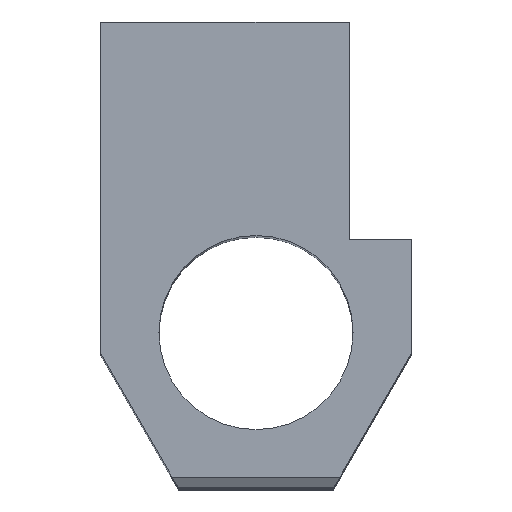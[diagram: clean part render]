
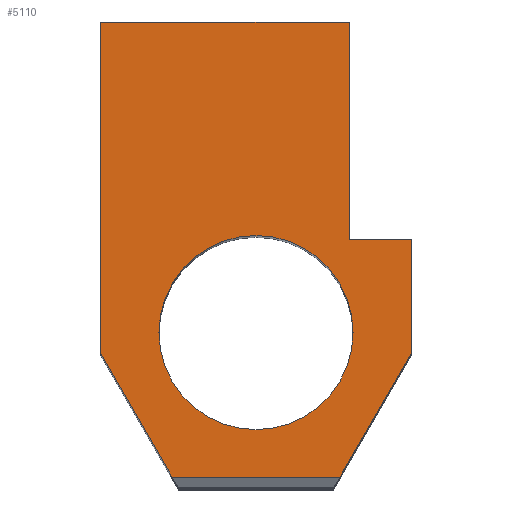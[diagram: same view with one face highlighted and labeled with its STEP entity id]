
A CAD part, top view. The second image highlights one B-rep face of the part: STEP entity #5110.
In plain terms, the highlighted planar face has unit normal (0, 0, 1).
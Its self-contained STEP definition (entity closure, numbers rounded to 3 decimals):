
#25=FACE_BOUND('',#416,.T.);
#37=CIRCLE('',#5377,6.25);
#172=FACE_OUTER_BOUND('',#415,.T.);
#415=EDGE_LOOP('',(#3584,#3585,#3586,#3587,#3588,#3589,#3590,#3591));
#416=EDGE_LOOP('',(#3592));
#550=LINE('',#6722,#1238);
#973=LINE('',#7628,#1661);
#974=LINE('',#7630,#1662);
#975=LINE('',#7632,#1663);
#976=LINE('',#7634,#1664);
#977=LINE('',#7636,#1665);
#978=LINE('',#7638,#1666);
#979=LINE('',#7639,#1667);
#1238=VECTOR('',#5517,10.);
#1661=VECTOR('',#6182,10.);
#1662=VECTOR('',#6183,10.);
#1663=VECTOR('',#6184,10.);
#1664=VECTOR('',#6185,10.);
#1665=VECTOR('',#6186,10.);
#1666=VECTOR('',#6187,10.);
#1667=VECTOR('',#6188,10.);
#1926=VERTEX_POINT('',#6719);
#1927=VERTEX_POINT('',#6721);
#2289=VERTEX_POINT('',#7627);
#2290=VERTEX_POINT('',#7629);
#2291=VERTEX_POINT('',#7631);
#2292=VERTEX_POINT('',#7633);
#2293=VERTEX_POINT('',#7635);
#2294=VERTEX_POINT('',#7637);
#2295=VERTEX_POINT('',#7640);
#2396=EDGE_CURVE('',#1926,#1927,#550,.T.);
#2819=EDGE_CURVE('',#1926,#2289,#973,.T.);
#2820=EDGE_CURVE('',#2289,#2290,#974,.T.);
#2821=EDGE_CURVE('',#2290,#2291,#975,.T.);
#2822=EDGE_CURVE('',#2291,#2292,#976,.T.);
#2823=EDGE_CURVE('',#2292,#2293,#977,.T.);
#2824=EDGE_CURVE('',#2293,#2294,#978,.T.);
#2825=EDGE_CURVE('',#2294,#1927,#979,.T.);
#2826=EDGE_CURVE('',#2295,#2295,#37,.T.);
#3584=ORIENTED_EDGE('',*,*,#2396,.F.);
#3585=ORIENTED_EDGE('',*,*,#2819,.T.);
#3586=ORIENTED_EDGE('',*,*,#2820,.T.);
#3587=ORIENTED_EDGE('',*,*,#2821,.T.);
#3588=ORIENTED_EDGE('',*,*,#2822,.T.);
#3589=ORIENTED_EDGE('',*,*,#2823,.T.);
#3590=ORIENTED_EDGE('',*,*,#2824,.T.);
#3591=ORIENTED_EDGE('',*,*,#2825,.T.);
#3592=ORIENTED_EDGE('',*,*,#2826,.T.);
#4631=PLANE('',#5376);
#5110=ADVANCED_FACE('',(#172,#25),#4631,.T.);
#5376=AXIS2_PLACEMENT_3D('',#7626,#6180,#6181);
#5377=AXIS2_PLACEMENT_3D('',#7641,#6189,#6190);
#5517=DIRECTION('',(-1.,0.,0.));
#6180=DIRECTION('center_axis',(0.,0.,1.));
#6181=DIRECTION('ref_axis',(1.,0.,0.));
#6182=DIRECTION('',(0.5,0.866,0.));
#6183=DIRECTION('',(0.,1.,0.));
#6184=DIRECTION('',(-1.,0.,0.));
#6185=DIRECTION('',(0.,1.,0.));
#6186=DIRECTION('',(-1.,0.,0.));
#6187=DIRECTION('',(0.,-1.,0.));
#6188=DIRECTION('',(0.5,-0.866,0.));
#6189=DIRECTION('center_axis',(0.,0.,-1.));
#6190=DIRECTION('ref_axis',(-1.,0.,0.));
#6719=CARTESIAN_POINT('',(15.402,0.696,0.));
#6721=CARTESIAN_POINT('',(4.598,0.696,0.));
#6722=CARTESIAN_POINT('',(15.,0.696,0.));
#7626=CARTESIAN_POINT('Origin',(10.,15.,0.));
#7627=CARTESIAN_POINT('',(20.,8.66,0.));
#7628=CARTESIAN_POINT('',(15.,0.,0.));
#7629=CARTESIAN_POINT('',(20.,16.,0.));
#7630=CARTESIAN_POINT('',(20.,0.,0.));
#7631=CARTESIAN_POINT('',(16.,16.,0.));
#7632=CARTESIAN_POINT('',(20.,16.,0.));
#7633=CARTESIAN_POINT('',(16.,30.,0.));
#7634=CARTESIAN_POINT('',(16.,16.,0.));
#7635=CARTESIAN_POINT('',(0.,30.,0.));
#7636=CARTESIAN_POINT('',(20.,30.,0.));
#7637=CARTESIAN_POINT('',(0.,8.66,0.));
#7638=CARTESIAN_POINT('',(0.,30.,0.));
#7639=CARTESIAN_POINT('',(-4.401,16.283,0.));
#7640=CARTESIAN_POINT('',(16.25,10.,0.));
#7641=CARTESIAN_POINT('Origin',(10.,10.,0.));
